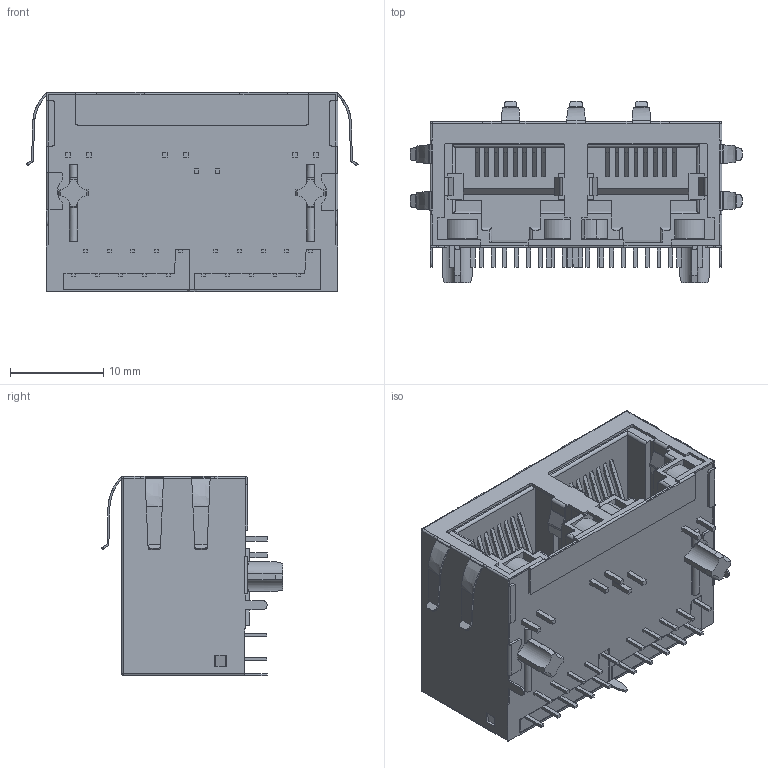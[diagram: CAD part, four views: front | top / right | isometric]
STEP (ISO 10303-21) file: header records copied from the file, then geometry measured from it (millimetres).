
FILE_DESCRIPTION((''),'2;1');
FILE_NAME('C-2301996-8','2017-05-03T',('workeradm'),('Tyco Electronics Ltd.'),'CREO PARAMETRIC BY PTC INC, 2016050','CREO PARAMETRIC BY PTC INC, 2016050','');
FILE_SCHEMA(('AUTOMOTIVE_DESIGN { 1 0 10303 214 1 1 1 1 }'));
Length unit declared in the file: millimetre
Products named in the file (1): C-2301996-8
Bounding box: 35.57 x 19.41 x 21.35 mm (x, y, z)
Volume: 6689 mm3; surface area: 4527.2 mm2
Topology: 1 solids, 1 shells, 797 faces, 2261 edges, 1482 vertices
Faces by surface type: plane 612, cylinder 158, extrusion 23, sphere 4
Entity records: 26665 total; most frequent: CARTESIAN_POINT 5985, ORIENTED_EDGE 4522, DIRECTION 3827, EDGE_CURVE 2261, VECTOR 1825, LINE 1802, VERTEX_POINT 1482, AXIS2_PLACEMENT_3D 1001
